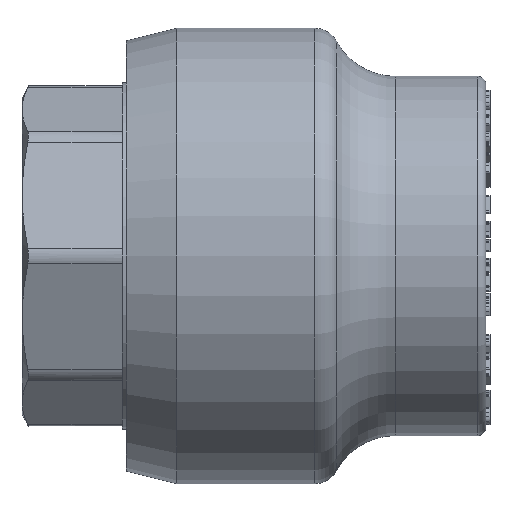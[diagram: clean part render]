
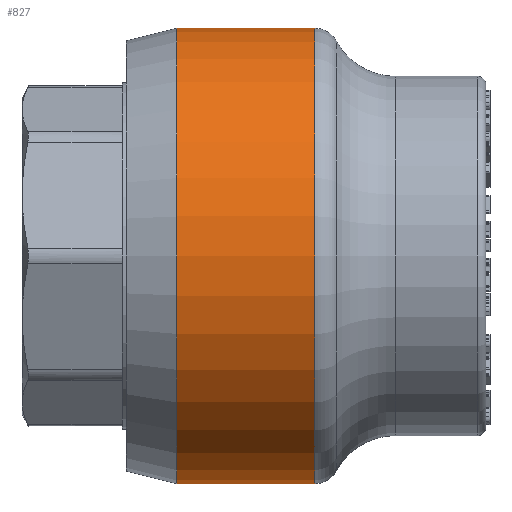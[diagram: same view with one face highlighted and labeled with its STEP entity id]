
A CAD part, left-side view. The second image highlights one B-rep face of the part: STEP entity #827.
In plain terms, the highlighted cylindrical face has radius 27.25 mm (diameter 54.5 mm), a full revolution.
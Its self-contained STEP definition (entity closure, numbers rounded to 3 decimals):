
#827=ADVANCED_FACE('',(#4900,#4902),#4904,.T.);
#4900=FACE_BOUND('',#4901,.T.);
#4901=EDGE_LOOP('',(#10967,#10968));
#4902=FACE_OUTER_BOUND('',#4903,.T.);
#4903=EDGE_LOOP('',(#10969));
#4904=CYLINDRICAL_SURFACE('',#4905,27.25);
#4905=AXIS2_PLACEMENT_3D('',#4906,#4907,#4908);
#4906=CARTESIAN_POINT('',(0.,18.5,0.));
#4907=DIRECTION('',(0.,1.,0.));
#4908=DIRECTION('',(-1.,0.,0.));
#10967=ORIENTED_EDGE('',*,*,#14000,.T.);
#10968=ORIENTED_EDGE('',*,*,#14001,.T.);
#10969=ORIENTED_EDGE('',*,*,#13998,.T.);
#13998=EDGE_CURVE('',#17264,#17264,#17265,.T.);
#14000=EDGE_CURVE('',#17268,#17269,#17270,.F.);
#14001=EDGE_CURVE('',#17269,#17268,#17271,.F.);
#17264=VERTEX_POINT('',#24188);
#17265=CIRCLE('',#24189,27.25);
#17268=VERTEX_POINT('',#24198);
#17269=VERTEX_POINT('',#24199);
#17270=CIRCLE('',#24200,27.25);
#17271=CIRCLE('',#24204,27.25);
#24188=CARTESIAN_POINT('',(-27.25,20.489,0.));
#24189=AXIS2_PLACEMENT_3D('',#24190,#24191,#24192);
#24190=CARTESIAN_POINT('',(0.,20.489,0.));
#24191=DIRECTION('',(0.,1.,0.));
#24192=DIRECTION('',(-1.,0.,0.));
#24198=CARTESIAN_POINT('',(0.,37.,27.25));
#24199=CARTESIAN_POINT('',(-27.25,37.,0.));
#24200=AXIS2_PLACEMENT_3D('',#24201,#24202,#24203);
#24201=CARTESIAN_POINT('',(0.,37.,0.));
#24202=DIRECTION('',(0.,1.,0.));
#24203=DIRECTION('',(-1.,0.,0.));
#24204=AXIS2_PLACEMENT_3D('',#24205,#24206,#24207);
#24205=CARTESIAN_POINT('',(0.,37.,0.));
#24206=DIRECTION('',(0.,1.,0.));
#24207=DIRECTION('',(0.,0.,1.));
